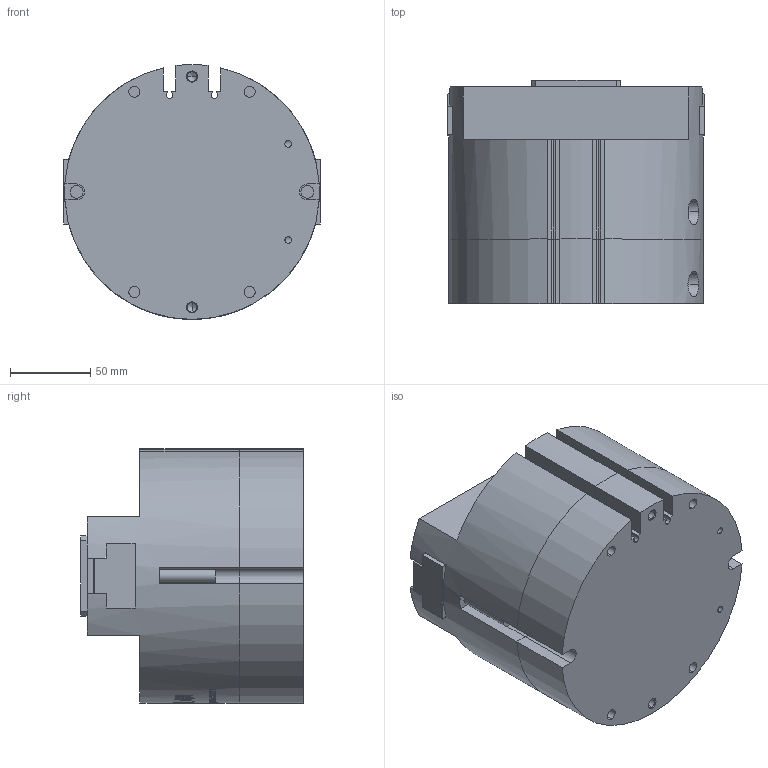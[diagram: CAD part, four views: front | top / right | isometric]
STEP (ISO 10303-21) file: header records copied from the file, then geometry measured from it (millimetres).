
FILE_DESCRIPTION (( 'STEP AP203' ), '1' );
FILE_NAME ('OPM-160-C1-MC&MA-原始檔-組合-W106.04.18.STEP', '2017-04-18T08:07:02', ( 'DanyaoCAD' ), ( '' ), 'SwSTEP 2.0', 'SolidWorks 2016', '' );
FILE_SCHEMA (( 'CONFIG_CONTROL_DESIGN' ));
Length unit declared in the file: millimetre
Products named in the file (4): OPM-160-C1-MC&MA-原始檔-組合-W106.04.18; Griffa; Corpo; Fondello
Assembly tree (4 placements, depth 2):
  OPM-160-C1-MC&MA-原始檔-組合-W106.04.18
    Griffa  x2
    Corpo
    Fondello
Bounding box: 160 x 139 x 158.93 mm (x, y, z)
Volume: 2314324.4 mm3; surface area: 211313.4 mm2
Topology: 4 solids, 4 shells, 1022 faces, 2845 edges, 1886 vertices
Faces by surface type: bspline 665, plane 204, cylinder 133, cone 20
Entity records: 112180 total; most frequent: CARTESIAN_POINT 92098, ORIENTED_EDGE 5522, EDGE_CURVE 2761, B_SPLINE_CURVE_WITH_KNOTS 2049, VERTEX_POINT 1836, DIRECTION 1619, EDGE_LOOP 1069, ADVANCED_FACE 991
